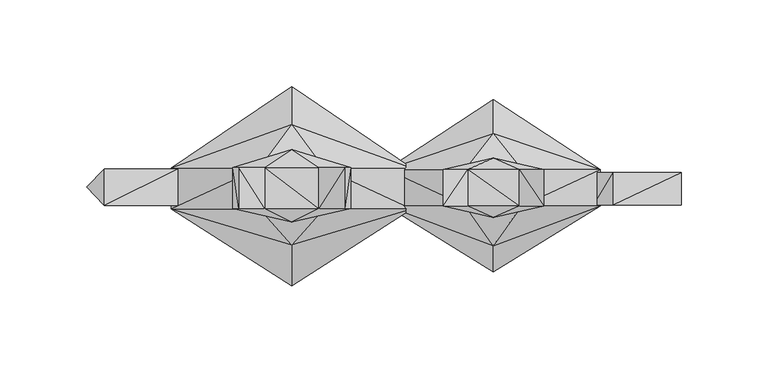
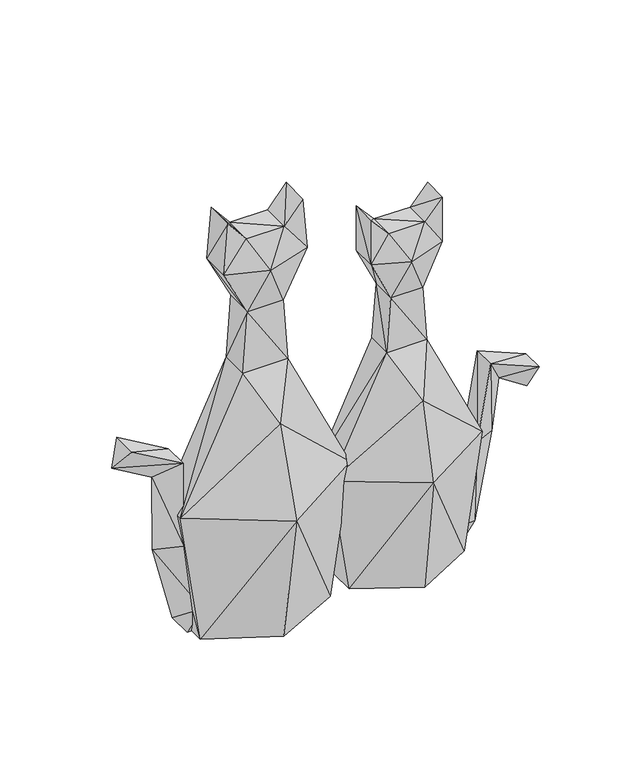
"""IFC4 building model written with IfcOpenShell, lengths in millimetres: geographic element geometry, Enscape AssetDefinition - Sculpture, Cats : Enscape AssetDefinition - Sculpture, Cats."""

from ifc_helpers import new_model, si_unit, origin, place, context, project, spatial, faceted_brep, source, transform, mapped, element, save


def geographic_element_067eaa29(model_context):
    return source(origin(), model_context, "Body", "Brep", [
        faceted_brep([(31.8725184, -10.4259336, 272.5536227), (60.8022287, -17.0939248, 269.0736949), (46.0980982, -10.4259336, 294.3854332), (75.5063593, -10.4259336, 294.3854332), (89.7319317, -10.4259336, 272.5536227), (73.821485, -10.4259336, 238.6735678), (47.7839559, -10.4259336, 238.6735678), (46.0980982, 10.507348, 294.3854332), (31.7831635, -10.4259336, 310.5977178), (89.8222849, -10.4259336, 310.5977178), (75.5063593, 10.507348, 294.3854332), (60.8022287, 17.1753392, 269.5492506), (31.8725184, 10.507348, 272.5536227), (31.7831635, 10.507348, 310.5977178), (47.7839559, 10.507348, 238.6735678), (89.7319317, 10.507348, 272.5536227), (73.821485, 10.507348, 238.6735678), (89.8222849, 10.507348, 310.5977178), (44.4569141, 10.507348, 192.6588714), (77.1475434, -10.4259336, 192.6588714), (77.1475434, 10.507348, 192.6588714), (44.4569141, -10.4259336, 192.6588714), (60.8022287, -33.3727188, 159.4181955), (122.2229972, -10.4259336, 97.6876542), (122.2229972, 10.507348, 97.6876542), (60.8022287, 31.2311389, 159.4181955), (60.8022287, 50.858818, 97.9120359), (107.7234, 10.507348, 0.0), (60.8022287, -48.4372564, 97.9120359), (107.7234, -10.4259336, 0.0), (-0.6175537, -10.4259336, 97.6876542), (60.8022287, -35.697978, 0.0), (13.8810575, -10.4259336, 0.0), (60.8022287, 37.0740667, 0.0), (13.8820503, 10.507348, 0.0), (-0.6175537, 10.507348, 97.6876542)], [[[0, 1, 2]], [[3, 1, 4]], [[4, 1, 5]], [[2, 1, 3]], [[6, 1, 0]], [[1, 6, 5]], [[7, 8, 2]], [[7, 2, 3]], [[0, 2, 8]], [[3, 9, 10]], [[7, 3, 10]], [[3, 4, 9]], [[7, 11, 12]], [[13, 8, 7]], [[10, 11, 7]], [[7, 12, 13]], [[13, 0, 8]], [[12, 0, 13]], [[14, 12, 11]], [[14, 0, 12]], [[15, 11, 10]], [[11, 15, 16]], [[11, 16, 14]], [[10, 9, 17]], [[15, 10, 17]], [[9, 4, 17]], [[17, 4, 15]], [[15, 4, 16]], [[16, 4, 5]], [[18, 14, 16]], [[5, 19, 16]], [[18, 16, 20]], [[16, 19, 20]], [[19, 5, 6]], [[6, 0, 14]], [[14, 21, 6]], [[19, 6, 21]], [[22, 19, 21]], [[19, 22, 23]], [[20, 19, 24]], [[24, 19, 23]], [[18, 20, 25]], [[25, 20, 24]], [[26, 24, 27]], [[24, 23, 27]], [[25, 24, 26]], [[23, 28, 29]], [[23, 22, 28]], [[27, 23, 29]], [[28, 22, 30]], [[30, 22, 21]], [[31, 28, 32]], [[32, 28, 30]], [[29, 28, 31]], [[31, 33, 29]], [[29, 33, 27]], [[26, 27, 33]], [[33, 31, 32]], [[33, 32, 34]], [[34, 26, 33]], [[34, 35, 26]], [[35, 25, 26]], [[32, 30, 34]], [[34, 30, 35]], [[30, 21, 35]], [[35, 18, 25]], [[35, 21, 18]], [[14, 18, 21]]]),
        faceted_brep([(105.4438129, 8.8641783, 21.828834), (121.7007637, -0.5192613, 14.9880862), (110.829033, -0.5192613, 0.0), (105.4438129, -9.9027008, 21.828834), (135.7446462, -0.5192613, 87.2478187), (118.3071956, -9.9027008, 89.4728005), (94.8679596, -0.5192613, 0.0), (118.3071956, 8.8641783, 89.4728005), (129.2861402, -9.9027008, 152.8266519), (129.2861402, 8.8641783, 152.8266519), (141.1745548, -0.5192613, 131.1030686), (164.1253084, -0.5192613, 116.109021), (168.7519997, 8.8641783, 136.4604831), (168.7519997, -9.9027008, 136.4604831)], [[[0, 1, 2]], [[3, 2, 1]], [[0, 4, 1]], [[1, 5, 3]], [[5, 1, 4]], [[2, 3, 6]], [[0, 2, 6]], [[0, 6, 3]], [[4, 0, 7]], [[3, 7, 0]], [[7, 3, 5]], [[4, 8, 5]], [[5, 9, 7]], [[9, 5, 8]], [[7, 10, 4]], [[8, 4, 10]], [[10, 7, 9]], [[9, 11, 10]], [[11, 9, 12]], [[8, 12, 9]], [[10, 13, 8]], [[12, 8, 13]], [[13, 10, 11]], [[11, 12, 13]]]),
        faceted_brep([(-21.3492867, 11.6203343, 307.1296811), (-55.3038158, 21.990668, 303.2079339), (-39.8232751, 11.6203343, 331.731528), (-70.7833618, 11.6203343, 331.731528), (-89.2573521, 11.6203343, 307.1296811), (-69.9741915, 11.6203343, 268.951565), (-40.63344, 11.6203343, 268.951565), (-39.8232751, -11.968825, 331.731528), (-24.751788, 11.6203343, 349.999994), (-85.8548507, 11.6203343, 349.999994), (-70.7833618, -11.968825, 331.731528), (-55.3038158, -19.4827262, 303.7430644), (-21.3492867, -11.968825, 307.1296811), (-24.751788, -11.968825, 349.999994), (-40.63344, -11.968825, 268.951565), (-89.2573521, -11.968825, 307.1296811), (-69.9741915, -11.968825, 268.951565), (-85.8548507, -11.968825, 349.999994), (-36.8844345, -11.968825, 217.0998901), (-73.7222061, 11.6203343, 217.0998901), (-73.7222061, -11.968825, 217.0998901), (-36.8844345, 11.6203343, 217.0998901), (-55.3038158, 36.4882872, 179.6415895), (-124.5154887, 11.6203343, 110.0794375), (-124.5154887, -11.968825, 110.0794375), (-55.3038158, -32.6757357, 179.6415895), (-55.3038158, -56.2926941, 110.3326157), (-108.1771329, -11.968825, 0.0), (-55.3038158, 58.2664832, 110.3326157), (-108.1771329, 11.6203343, 0.0), (13.9088565, 11.6203343, 110.0794375), (-55.3038158, 38.7837589, 0.0), (-2.4305005, 11.6203343, 0.0), (-55.3038158, -38.135428, 0.0), (-2.4305005, -11.968825, 0.0), (13.9088565, -11.968825, 110.0794375)], [[[0, 1, 2]], [[3, 1, 4]], [[4, 1, 5]], [[2, 1, 3]], [[6, 1, 0]], [[1, 6, 5]], [[7, 8, 2]], [[7, 2, 3]], [[0, 2, 8]], [[3, 9, 10]], [[7, 3, 10]], [[3, 4, 9]], [[7, 11, 12]], [[13, 8, 7]], [[10, 11, 7]], [[7, 12, 13]], [[13, 0, 8]], [[12, 0, 13]], [[14, 12, 11]], [[14, 0, 12]], [[15, 11, 10]], [[11, 15, 16]], [[11, 16, 14]], [[10, 9, 17]], [[15, 10, 17]], [[9, 4, 17]], [[17, 4, 15]], [[15, 4, 16]], [[16, 4, 5]], [[18, 14, 16]], [[5, 19, 16]], [[18, 16, 20]], [[16, 19, 20]], [[19, 5, 6]], [[6, 0, 14]], [[14, 21, 6]], [[19, 6, 21]], [[22, 19, 21]], [[19, 22, 23]], [[20, 19, 24]], [[24, 19, 23]], [[18, 20, 25]], [[25, 20, 24]], [[26, 24, 27]], [[24, 23, 27]], [[25, 24, 26]], [[23, 28, 29]], [[23, 22, 28]], [[27, 23, 29]], [[28, 22, 30]], [[30, 22, 21]], [[31, 28, 32]], [[32, 28, 30]], [[29, 28, 31]], [[31, 33, 29]], [[29, 33, 27]], [[26, 27, 33]], [[33, 31, 32]], [[33, 32, 34]], [[34, 26, 33]], [[34, 35, 26]], [[35, 25, 26]], [[32, 30, 34]], [[34, 30, 35]], [[30, 21, 35]], [[35, 18, 25]], [[35, 21, 18]], [[14, 18, 21]]]),
        faceted_brep([(-105.6076288, -10.1171574, 24.5978963), (-123.9277273, 0.4567117, 16.8893971), (-111.6759405, 0.4567117, 0.0), (-105.6076288, 11.0305808, 24.5978963), (-140.3326094, 0.4567117, 81.0077414), (-120.6830889, 11.0305808, 83.5156962), (-93.6904326, 0.4567117, 0.0), (-120.6830889, -10.1171574, 83.5156962), (-120.9243461, 11.0305808, 154.8739076), (-120.9243461, -10.1171574, 154.8739076), (-140.5450851, 0.4567117, 143.5454786), (-173.1235236, 0.4567117, 162.5000089), (-163.2367074, -10.1171574, 179.4916689), (-163.2367074, 11.0305808, 179.4916689)], [[[0, 1, 2]], [[3, 2, 1]], [[0, 4, 1]], [[1, 5, 3]], [[5, 1, 4]], [[2, 3, 6]], [[0, 2, 6]], [[0, 6, 3]], [[4, 0, 7]], [[3, 7, 0]], [[7, 3, 5]], [[4, 8, 5]], [[5, 9, 7]], [[9, 5, 8]], [[7, 10, 4]], [[8, 4, 10]], [[10, 7, 9]], [[9, 11, 10]], [[11, 9, 12]], [[8, 12, 9]], [[10, 13, 8]], [[12, 8, 13]], [[13, 10, 11]], [[11, 12, 13]]]),
    ])


if __name__ == "__main__":
    model = new_model("IFC4")
    model_context = context("Model", 3, world=origin())
    ifc_project = project(units=[si_unit("LENGTHUNIT", "METRE", prefix="MILLI")], contexts=[model_context])
    site = spatial("IfcSite", under=ifc_project)
    building = spatial("IfcBuilding", under=site)
    placement = place(None, origin())
    geographic_element_shape = geographic_element_067eaa29(model_context)
    element("IfcGeographicElement", 1, ObjectType="Enscape AssetDefinition - Sculpture, Cats : Enscape AssetDefinition - Sculpture, Cats", at=placement, inside=building, context=model_context, shape_type="MappedRepresentation", body=[
        mapped(geographic_element_shape, transform((0.0, 0.0, 0.0), x_axis=(1.0, 0.0, 0.0), y_axis=(0.0, 1.0, 0.0), z_axis=(0.0, 0.0, 1.0))),
    ])
    save(model, "model.ifc")
